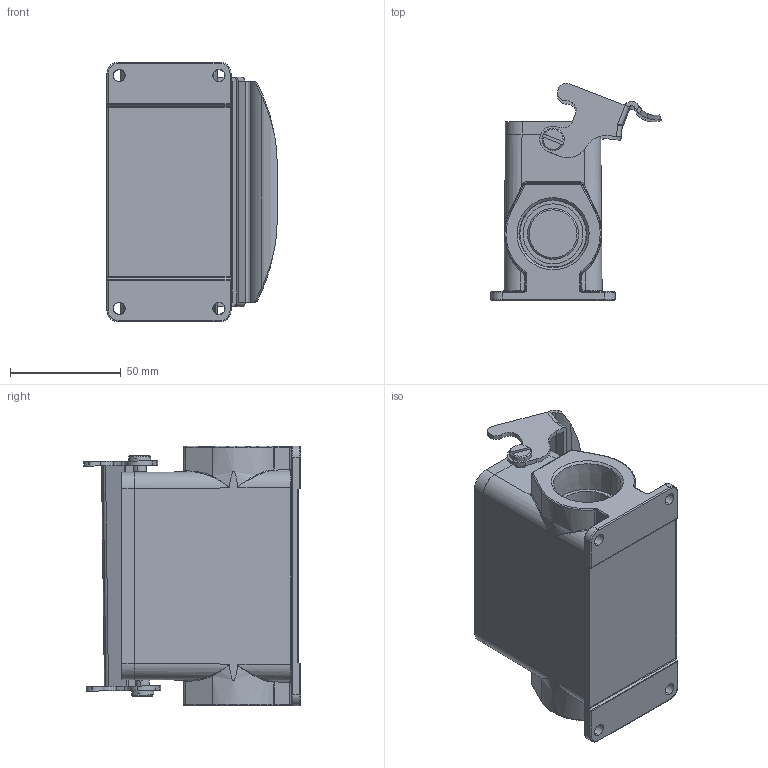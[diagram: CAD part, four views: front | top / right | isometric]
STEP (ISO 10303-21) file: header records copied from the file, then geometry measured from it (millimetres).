
FILE_DESCRIPTION (( 'STEP AP203' ), '1' );
FILE_NAME ('H16B-SGRH-LB-M32.STEP', '2020-11-21T05:53:25', ( '' ), ( '' ), 'SwSTEP 2.0', 'SolidWorks 2016', '' );
FILE_SCHEMA (( 'CONFIG_CONTROL_DESIGN' ));
Length unit declared in the file: millimetre
Products named in the file (4): h16bmifengquan; H16B-SGRH-LB-M32; 16bh-surface-m-highconstruction; H16B-AD-縐諶
Assembly tree (3 placements, depth 2):
  H16B-SGRH-LB-M32
    h16bmifengquan
    16bh-surface-m-highconstruction
    H16B-AD-縐諶
Bounding box: 76.69 x 97.88 x 117 mm (x, y, z)
Volume: 154329.9 mm3; surface area: 70896.1 mm2
Topology: 5 solids, 5 shells, 455 faces, 1114 edges, 684 vertices
Faces by surface type: cylinder 161, plane 132, bspline 100, cone 62
Entity records: 20637 total; most frequent: CARTESIAN_POINT 10349, ORIENTED_EDGE 2218, DIRECTION 1843, EDGE_CURVE 1109, VERTEX_POINT 684, AXIS2_PLACEMENT_3D 665, LINE 513, VECTOR 513
